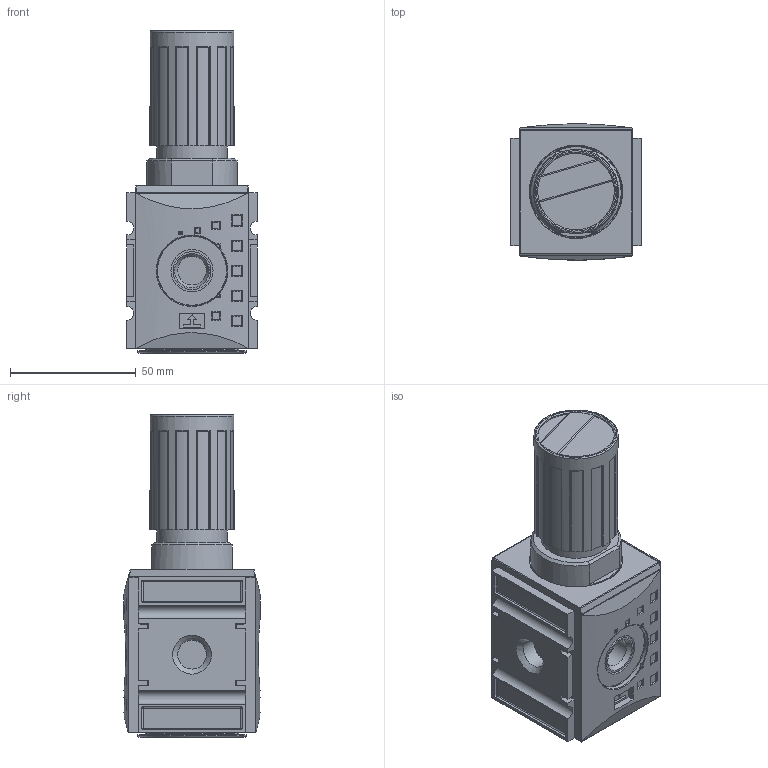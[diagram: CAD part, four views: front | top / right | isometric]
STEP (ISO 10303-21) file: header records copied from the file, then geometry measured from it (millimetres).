
FILE_DESCRIPTION((''),'2;1');
FILE_NAME('K:\ZEICHNG\Kunden Modelle\FUTURA Steps\BG1\KRBE-114.stp','2011-05-19T15:15:36',('DDruske'),(''),'Autodesk Inventor 2009','Autodesk Inventor 2009','');
FILE_SCHEMA(('AUTOMOTIVE_DESIGN { 1 0 10303 214 1 1 1 1 }'));
Length unit declared in the file: millimetre
Products named in the file (1): KREG-114
Bounding box: 52 x 54.19 x 128.3 mm (x, y, z)
Volume: 206304.2 mm3; surface area: 41061 mm2
Topology: 4 solids, 4 shells, 768 faces, 2048 edges, 1295 vertices
Faces by surface type: plane 292, cylinder 278, bspline 121, torus 65, cone 8, sphere 4
Full cylindrical faces by diameter (mm): 3.2 x2, 11.445 x3, 15.1 x2, 16.8 x4, 28 x4, 33.5 x1, 35 x1, 36 x1, 37.323 x1, 43.5 x1
Entity records: 30031 total; most frequent: CARTESIAN_POINT 10676, ORIENTED_EDGE 3942, DIRECTION 3784, EDGE_CURVE 1971, AXIS2_PLACEMENT_3D 1363, VERTEX_POINT 1281, VECTOR 1058, LINE 1058
